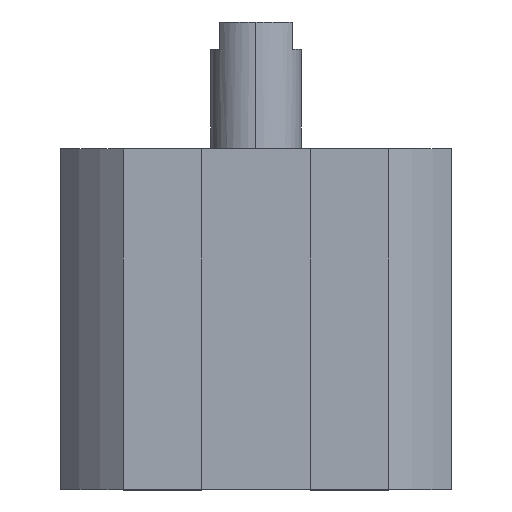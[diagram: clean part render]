
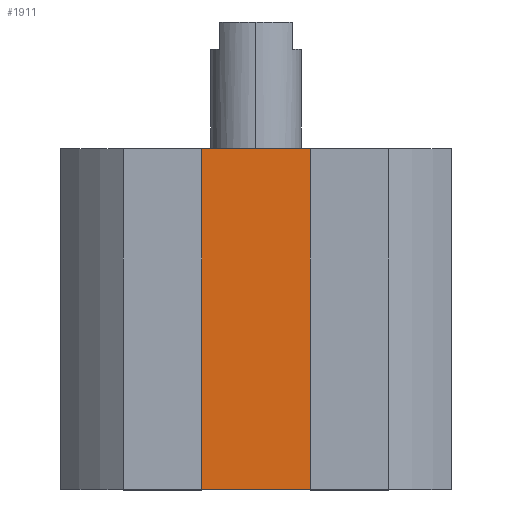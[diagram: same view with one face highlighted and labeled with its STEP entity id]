
A CAD part, top view. The second image highlights one B-rep face of the part: STEP entity #1911.
In plain terms, the highlighted planar face has unit normal (0, 0, 1).
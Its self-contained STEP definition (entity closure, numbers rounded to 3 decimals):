
#155 = CARTESIAN_POINT ( 'NONE',  ( -7.7, 0., 14. ) ) ;
#161 = CARTESIAN_POINT ( 'NONE',  ( 0., -37.5, 14. ) ) ;
#258 = PLANE ( 'NONE',  #2497 ) ;
#276 = ORIENTED_EDGE ( 'NONE', *, *, #719, .F. ) ;
#325 = EDGE_CURVE ( 'NONE', #1004, #2423, #2680, .T. ) ;
#369 = DIRECTION ( 'NONE',  ( 0., 1., 0. ) ) ;
#415 = LINE ( 'NONE', #161, #2592 ) ;
#551 = DIRECTION ( 'NONE',  ( 0., 1., 0. ) ) ;
#552 = VECTOR ( 'NONE', #567, 1000. ) ;
#567 = DIRECTION ( 'NONE',  ( 1., 0., 0. ) ) ;
#718 = ORIENTED_EDGE ( 'NONE', *, *, #325, .T. ) ;
#719 = EDGE_CURVE ( 'NONE', #2230, #2423, #1125, .T. ) ;
#899 = DIRECTION ( 'NONE',  ( 0., 0., 1. ) ) ;
#959 = VERTEX_POINT ( 'NONE', #1730 ) ;
#986 = CARTESIAN_POINT ( 'NONE',  ( -7.7, -37.5, 14. ) ) ;
#1004 = VERTEX_POINT ( 'NONE', #1896 ) ;
#1026 = ORIENTED_EDGE ( 'NONE', *, *, #2741, .T. ) ;
#1125 = LINE ( 'NONE', #1809, #552 ) ;
#1471 = EDGE_CURVE ( 'NONE', #959, #2230, #1486, .T. ) ;
#1486 = LINE ( 'NONE', #986, #1846 ) ;
#1633 = CARTESIAN_POINT ( 'NONE',  ( 7.7, -37.5, 14. ) ) ;
#1641 = DIRECTION ( 'NONE',  ( 1., 0., 0. ) ) ;
#1730 = CARTESIAN_POINT ( 'NONE',  ( -7.7, -37.5, 14. ) ) ;
#1752 = DIRECTION ( 'NONE',  ( 1., 0., 0. ) ) ;
#1809 = CARTESIAN_POINT ( 'NONE',  ( 0., 0., 14. ) ) ;
#1846 = VECTOR ( 'NONE', #551, 1000. ) ;
#1891 = CARTESIAN_POINT ( 'NONE',  ( 7.7, 0., 14. ) ) ;
#1896 = CARTESIAN_POINT ( 'NONE',  ( 7.7, -37.5, 14. ) ) ;
#1911 = ADVANCED_FACE ( 'NONE', ( #2507 ), #258, .T. ) ;
#1950 = CARTESIAN_POINT ( 'NONE',  ( 0., -37.5, 14. ) ) ;
#1977 = ORIENTED_EDGE ( 'NONE', *, *, #1471, .F. ) ;
#2119 = VECTOR ( 'NONE', #369, 1000. ) ;
#2188 = EDGE_LOOP ( 'NONE', ( #276, #1977, #1026, #718 ) ) ;
#2230 = VERTEX_POINT ( 'NONE', #155 ) ;
#2423 = VERTEX_POINT ( 'NONE', #1891 ) ;
#2497 = AXIS2_PLACEMENT_3D ( 'NONE', #1950, #899, #1752 ) ;
#2507 = FACE_OUTER_BOUND ( 'NONE', #2188, .T. ) ;
#2592 = VECTOR ( 'NONE', #1641, 1000. ) ;
#2680 = LINE ( 'NONE', #1633, #2119 ) ;
#2741 = EDGE_CURVE ( 'NONE', #959, #1004, #415, .T. ) ;
